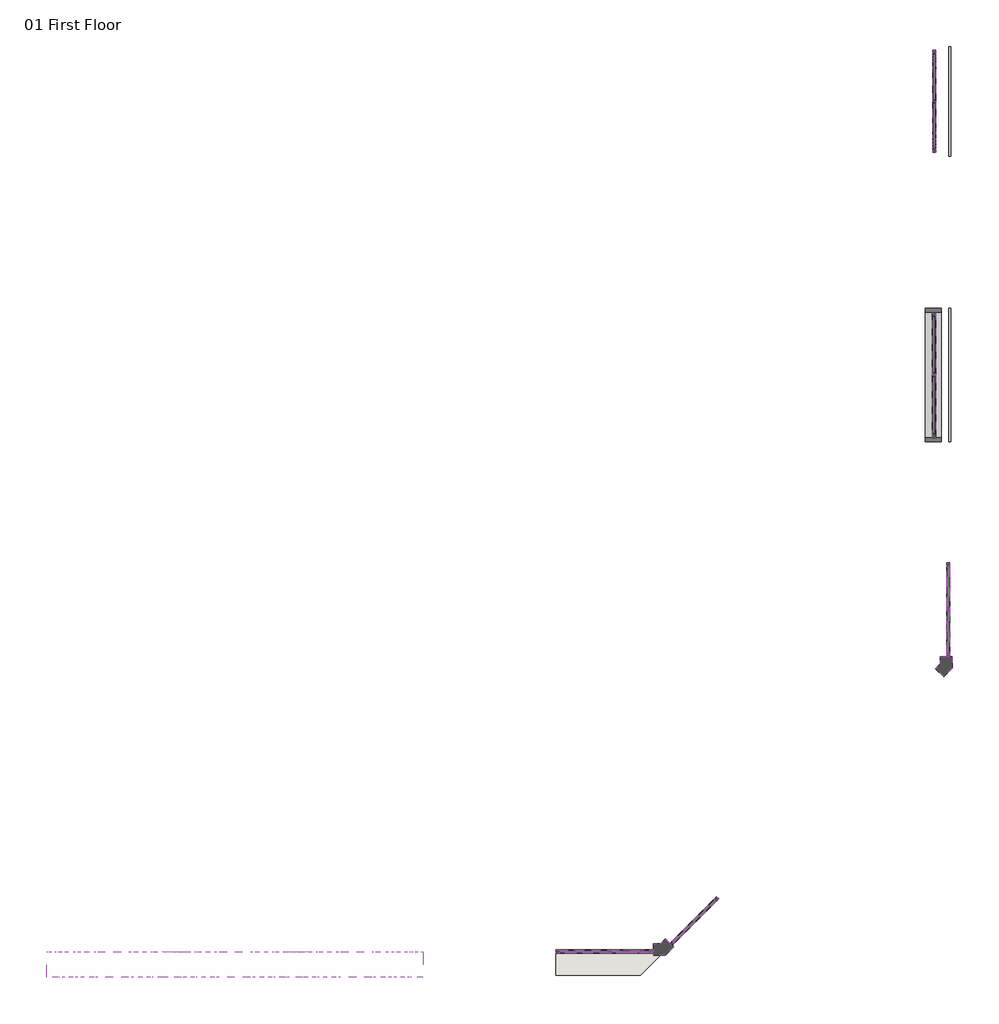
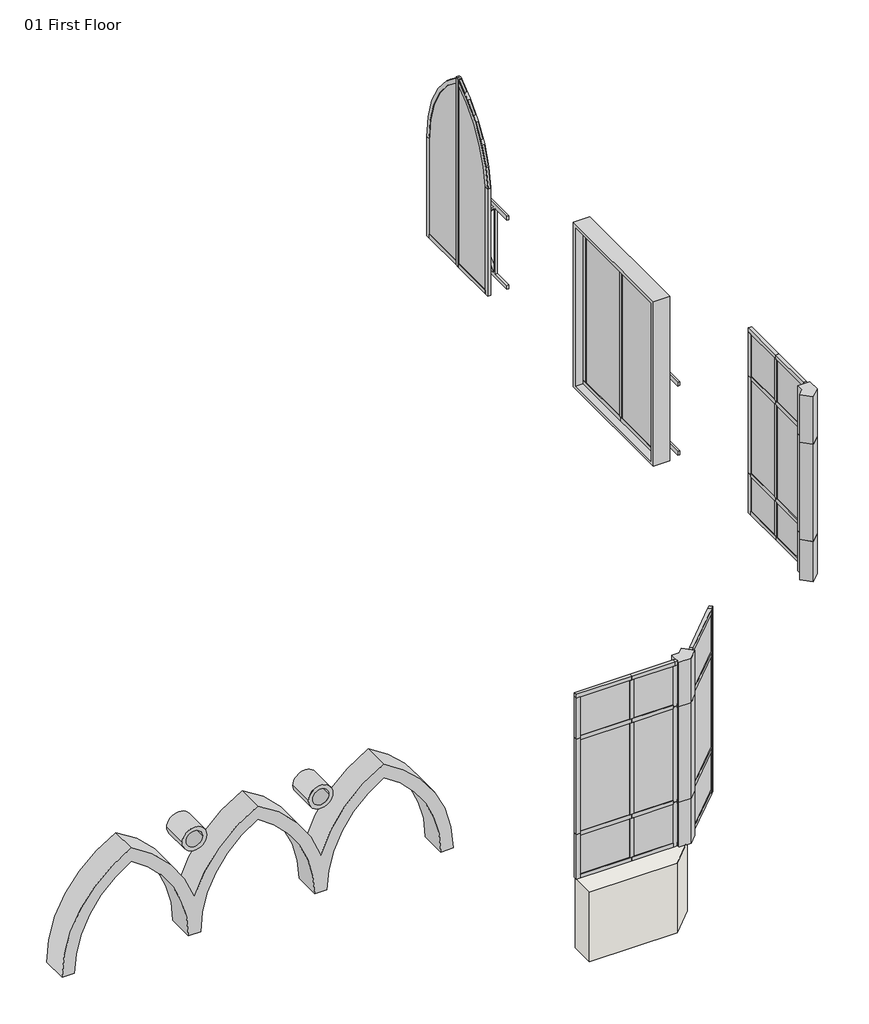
# One storey: 70 members, 25 plates, 5 proxies, 1 wall.
"""IFC4 building model written with IfcOpenShell, lengths in millimetres."""

from ifc_helpers import new_model, si_unit, origin, place, context, project, spatial, faceted_brep, transform, mapped, element, save
from components import generic_models_12_generic_models_12_d067ef9f, generic_models_15_generic_models_15_efa755f4, generic_models_16_generic_models_16_7fd303db, generic_models_17_generic_models_16_2699965c, generic_models_2_generic_models_2_ce3da98e, l_corner_mullion_l_mullion_1_84436f24, l_corner_mullion_l_mullion_1_990ac218, l_corner_mullion_l_mullion_1_5503049e, l_corner_mullion_l_mullion_1_2546fe3a, l_corner_mullion_l_mullion_1_32a30e72, rectangular_mullion_30mm_square_0beb0618, rectangular_mullion_30mm_square_74af2287, rectangular_mullion_30mm_square_bc888c15, rectangular_mullion_30mm_square_6e98ca6d, rectangular_mullion_30mm_square_5b9becf0, rectangular_mullion_30mm_square_0af94d56, rectangular_mullion_30mm_square_3b6dfc52, rectangular_mullion_30mm_square_c99fbce2, rectangular_mullion_30mm_square_45bacf98, rectangular_mullion_30mm_square_45b2ee8f, rectangular_mullion_30mm_square_86fe4f9d, rectangular_mullion_30mm_square_0cab2742, rectangular_mullion_30mm_square_0d12583d, rectangular_mullion_30mm_square_e2a04273, rectangular_mullion_30mm_square_133ca7d9, rectangular_mullion_30mm_square_72468e5d, rectangular_mullion_30mm_square_0105706c, rectangular_mullion_30mm_square_6dd94b54, rectangular_mullion_30mm_square_96682497, rectangular_mullion_30mm_square_48dd29ad, rectangular_mullion_30mm_square_f87c1b0b, rectangular_mullion_30mm_square_ad176692, rectangular_mullion_30mm_square_d153da73, rectangular_mullion_30mm_square_1b7a25a7, rectangular_mullion_30mm_square_5320ad48, rectangular_mullion_30mm_square_bbc1a294, rectangular_mullion_30mm_square_fb616f05, rectangular_mullion_30mm_square_5992c992, rectangular_mullion_30mm_square_75a85c25, rectangular_mullion_30mm_square_00888295, rectangular_mullion_30mm_square_9d930069, rectangular_mullion_30mm_square_78a9478a, rectangular_mullion_30mm_square_adbf443b, rectangular_mullion_30mm_square_95f67fdb, rectangular_mullion_30mm_square_f9243ba7, rectangular_mullion_30mm_square_9f93f3b7, rectangular_mullion_30mm_square_3c403d27, rectangular_mullion_30mm_square_8c048c14, rectangular_mullion_30mm_square_eb0cdd89, rectangular_mullion_30mm_square_0eecdd6a, rectangular_mullion_30mm_square_0e317346, rectangular_mullion_30mm_square_ed6351fc, system_panel_glazed_860a73af, system_panel_glazed_29cb387f, system_panel_glazed_97369be3, system_panel_glazed_47b3d700, system_panel_glazed_57bc2548, system_panel_glazed_f3e2f1d7, system_panel_glazed_a096f5b4, system_panel_glazed_72658598, system_panel_glazed_d0e55b34, system_panel_glazed_96af7f84, system_panel_glazed_873d9312, system_panel_glazed_47c0054f, system_panel_glazed_6a7ed4c6, system_panel_glazed_7d47e8fc, system_panel_glazed_19cdf183, system_panel_glazed_bf098422, system_panel_glazed_8feeb8a7, system_panel_glazed_0e0c2a18, system_panel_glazed_70a43815, system_panel_glazed_459e0092, system_panel_glazed_e5b8c45c

model = new_model("IFC4")

# Units and contexts
model_context = context("Model", 3, world=origin())
ifc_project = project(units=[si_unit("LENGTHUNIT", "METRE", prefix="MILLI")], contexts=[model_context])

# Site, building, storey
site = spatial("IfcSite", under=ifc_project)
building = spatial("IfcBuilding", under=site)
storey = spatial("IfcBuildingStorey", under=building, Name="01 First Floor", Elevation=3300.0)

# Proxies
placement = place(None, origin())
generic_models_12_generic_models_12_shape = generic_models_12_generic_models_12_d067ef9f(model_context)
element("IfcBuildingElementProxy", 1, Name="Generic Models 12 : Generic Models 12", ObjectType="Generic Models 12 : Generic Models 12", at=placement, inside=storey, context=model_context, shape_type="MappedRepresentation", body=[
    mapped(generic_models_12_generic_models_12_shape, transform((0.0, 0.0, 0.0), x_axis=(1.0, 0.0, 0.0), y_axis=(0.0, 1.0, 0.0), z_axis=(0.0, 0.0, 1.0))),
])
generic_models_15_generic_models_15_shape = generic_models_15_generic_models_15_efa755f4(model_context)
element("IfcBuildingElementProxy", 2, Name="Generic Models 15 : Generic Models 15", ObjectType="Generic Models 15 : Generic Models 15", at=placement, inside=storey, context=model_context, shape_type="MappedRepresentation", body=[
    mapped(generic_models_15_generic_models_15_shape, transform((0.0, 0.0, 0.0), x_axis=(1.0, 0.0, 0.0), y_axis=(0.0, 1.0, 0.0), z_axis=(0.0, 0.0, 1.0))),
])
generic_models_16_generic_models_16_shape = generic_models_16_generic_models_16_7fd303db(model_context)
element("IfcBuildingElementProxy", 3, Name="Generic Models 16 : Generic Models 16", ObjectType="Generic Models 16 : Generic Models 16", at=placement, inside=storey, context=model_context, shape_type="MappedRepresentation", body=[
    mapped(generic_models_16_generic_models_16_shape, transform((0.0, 0.0, 0.0), x_axis=(1.0, 0.0, 0.0), y_axis=(0.0, 1.0, 0.0), z_axis=(0.0, 0.0, 1.0))),
])
generic_models_17_generic_models_16_shape = generic_models_17_generic_models_16_2699965c(model_context)
element("IfcBuildingElementProxy", 4, Name="Generic Models 17 : Generic Models 16", ObjectType="Generic Models 17 : Generic Models 16", at=placement, inside=storey, context=model_context, shape_type="MappedRepresentation", body=[
    mapped(generic_models_17_generic_models_16_shape, transform((0.0, -3481.7316317, 50.0), x_axis=(1.0, 0.0, 0.0), y_axis=(0.0, 1.0, 0.0), z_axis=(0.0, 0.0, 1.0))),
])
generic_models_2_generic_models_2_shape = generic_models_2_generic_models_2_ce3da98e(model_context)
element("IfcBuildingElementProxy", 5, Name="Generic Models 2 : Generic Models 2", ObjectType="Generic Models 2 : Generic Models 2", at=placement, inside=storey, context=model_context, shape_type="MappedRepresentation", body=[
    mapped(generic_models_2_generic_models_2_shape, transform((0.0, 0.0, 0.0), x_axis=(1.0, 0.0, 0.0), y_axis=(0.0, 1.0, 0.0), z_axis=(0.0, 0.0, 1.0))),
])

# Members
l_corner_mullion_l_mullion_1_shape = l_corner_mullion_l_mullion_1_84436f24(model_context)
element("IfcMember", 6, ObjectType="L Corner Mullion : L Mullion 1", at=placement, inside=storey, context=model_context, shape_type="MappedRepresentation", body=[
    mapped(l_corner_mullion_l_mullion_1_shape, transform((12694.2552971, 3926.1313165, 5380.0), x_axis=(0.0, -1.0, 0.0), y_axis=(1.0, 0.0, 0.0), z_axis=(0.0, 0.0, 1.0))),
])
l_corner_mullion_l_mullion_1_2_shape = l_corner_mullion_l_mullion_1_990ac218(model_context)
element("IfcMember", 7, ObjectType="L Corner Mullion : L Mullion 1", at=placement, inside=storey, context=model_context, shape_type="MappedRepresentation", body=[
    mapped(l_corner_mullion_l_mullion_1_2_shape, transform((12694.2552971, 3926.1313165, 4120.0), x_axis=(0.0, -1.0, 0.0), y_axis=(1.0, 0.0, 0.0), z_axis=(0.0, 0.0, 1.0))),
])
l_corner_mullion_l_mullion_1_3_shape = l_corner_mullion_l_mullion_1_5503049e(model_context)
element("IfcMember", 8, ObjectType="L Corner Mullion : L Mullion 1", at=placement, inside=storey, context=model_context, shape_type="MappedRepresentation", body=[
    mapped(l_corner_mullion_l_mullion_1_3_shape, transform((9068.1237623, 299.9997817, 5420.0), x_axis=(-0.707106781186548, -0.707106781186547, 0.0), y_axis=(0.707106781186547, -0.707106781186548, 0.0), z_axis=(0.0, 0.0, 1.0))),
])
l_corner_mullion_l_mullion_1_4_shape = l_corner_mullion_l_mullion_1_2546fe3a(model_context)
element("IfcMember", 9, ObjectType="L Corner Mullion : L Mullion 1", at=placement, inside=storey, context=model_context, shape_type="MappedRepresentation", body=[
    mapped(l_corner_mullion_l_mullion_1_4_shape, transform((9068.1237623, 299.9997817, 6000.0), x_axis=(-0.707106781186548, -0.707106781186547, 0.0), y_axis=(0.707106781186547, -0.707106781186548, 0.0), z_axis=(0.0, 0.0, 1.0))),
])
element("IfcMember", 10, ObjectType="L Corner Mullion : L Mullion 1", at=placement, inside=storey, context=model_context, shape_type="MappedRepresentation", body=[
    mapped(l_corner_mullion_l_mullion_1_4_shape, transform((9068.1237623, 299.9997817, 4180.0), x_axis=(-0.707106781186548, -0.707106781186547, 0.0), y_axis=(0.707106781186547, -0.707106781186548, 0.0), z_axis=(0.0, 0.0, 1.0))),
])
l_corner_mullion_l_mullion_1_5_shape = l_corner_mullion_l_mullion_1_32a30e72(model_context)
element("IfcMember", 11, ObjectType="L Corner Mullion : L Mullion 1", at=placement, inside=storey, context=model_context, shape_type="MappedRepresentation", body=[
    mapped(l_corner_mullion_l_mullion_1_5_shape, transform((12694.2552971, 3926.1313165, 6000.0), x_axis=(0.0, -1.0, 0.0), y_axis=(1.0, 0.0, 0.0), z_axis=(0.0, 0.0, 1.0))),
])
rectangular_mullion_30mm_square_shape = rectangular_mullion_30mm_square_0beb0618(model_context)
element("IfcMember", 12, ObjectType="Rectangular Mullion : 30mm Square", at=placement, inside=storey, context=model_context, shape_type="MappedRepresentation", body=[
    mapped(rectangular_mullion_30mm_square_shape, transform((12510.6388763, 6846.7661592, 5450.0), x_axis=(0.0, 0.0, 1.0), y_axis=(-1.0, 0.0, 0.0), z_axis=(0.0, -1.0, 0.0))),
])
rectangular_mullion_30mm_square_2_shape = rectangular_mullion_30mm_square_74af2287(model_context)
element("IfcMember", 13, ObjectType="Rectangular Mullion : 30mm Square", at=placement, inside=storey, context=model_context, shape_type="MappedRepresentation", body=[
    mapped(rectangular_mullion_30mm_square_2_shape, transform((12510.6388763, 7646.7661592, 3450.0), x_axis=(0.0, -1.0, 0.0), y_axis=(-1.0, 0.0, 0.0), z_axis=(0.0, 0.0, -1.0))),
])
element("IfcMember", 14, ObjectType="Rectangular Mullion : 30mm Square", at=placement, inside=storey, context=model_context, shape_type="MappedRepresentation", body=[
    mapped(rectangular_mullion_30mm_square_shape, transform((12510.6388763, 7646.7661592, 3400.0), x_axis=(0.0, 0.0, -1.0), y_axis=(-1.0, 0.0, 0.0), z_axis=(0.0, 1.0, 0.0))),
])
rectangular_mullion_30mm_square_3_shape = rectangular_mullion_30mm_square_bc888c15(model_context)
element("IfcMember", 15, ObjectType="Rectangular Mullion : 30mm Square", at=placement, inside=storey, context=model_context, shape_type="MappedRepresentation", body=[
    mapped(rectangular_mullion_30mm_square_3_shape, transform((12510.6388763, 6846.7661592, 3450.0), x_axis=(0.0, -1.0, 0.0), y_axis=(-1.0, 0.0, 0.0), z_axis=(0.0, 0.0, -1.0))),
])
element("IfcMember", 16, ObjectType="Rectangular Mullion : 30mm Square", at=placement, inside=storey, context=model_context, shape_type="MappedRepresentation", body=[
    mapped(rectangular_mullion_30mm_square_3_shape, transform((12510.6388763, 8438.4977909, 5400.0), x_axis=(0.0, 1.0, 0.0), y_axis=(-1.0, 0.0, 0.0), z_axis=(0.0, 0.0, 1.0))),
])
rectangular_mullion_30mm_square_4_shape = rectangular_mullion_30mm_square_6e98ca6d(model_context)
element("IfcMember", 17, ObjectType="Rectangular Mullion : 30mm Square", at=placement, inside=storey, context=model_context, shape_type="MappedRepresentation", body=[
    mapped(rectangular_mullion_30mm_square_4_shape, transform((12694.2552971, 5250.511329, 4120.0), x_axis=(0.0, 1.0, 0.0), y_axis=(1.0, 0.0, 0.0), z_axis=(0.0, 0.0, -1.0))),
])
rectangular_mullion_30mm_square_5_shape = rectangular_mullion_30mm_square_5b9becf0(model_context)
element("IfcMember", 18, ObjectType="Rectangular Mullion : 30mm Square", at=placement, inside=storey, context=model_context, shape_type="MappedRepresentation", body=[
    mapped(rectangular_mullion_30mm_square_5_shape, transform((12694.2552971, 5250.511329, 3600.0), x_axis=(0.0, 1.0, 0.0), y_axis=(1.0, 0.0, 0.0), z_axis=(0.0, 0.0, -1.0))),
])
rectangular_mullion_30mm_square_6_shape = rectangular_mullion_30mm_square_0af94d56(model_context)
element("IfcMember", 19, ObjectType="Rectangular Mullion : 30mm Square", at=placement, inside=storey, context=model_context, shape_type="MappedRepresentation", body=[
    mapped(rectangular_mullion_30mm_square_6_shape, transform((12694.2552971, 4668.3213227, 3650.0), x_axis=(0.0, 1.0, 0.0), y_axis=(1.0, 0.0, 0.0), z_axis=(0.0, 0.0, -1.0))),
])
rectangular_mullion_30mm_square_7_shape = rectangular_mullion_30mm_square_3b6dfc52(model_context)
element("IfcMember", 20, ObjectType="Rectangular Mullion : 30mm Square", at=placement, inside=storey, context=model_context, shape_type="MappedRepresentation", body=[
    mapped(rectangular_mullion_30mm_square_7_shape, transform((12694.2552971, 4668.3213227, 4145.0), x_axis=(0.0, 1.0, 0.0), y_axis=(1.0, 0.0, 0.0), z_axis=(0.0, 0.0, -1.0))),
])
rectangular_mullion_30mm_square_8_shape = rectangular_mullion_30mm_square_c99fbce2(model_context)
element("IfcMember", 21, ObjectType="Rectangular Mullion : 30mm Square", at=placement, inside=storey, context=model_context, shape_type="MappedRepresentation", body=[
    mapped(rectangular_mullion_30mm_square_8_shape, transform((12694.2552971, 4061.1313165, 5380.0), x_axis=(0.0, 0.0, 1.0), y_axis=(1.0, 0.0, 0.0), z_axis=(0.0, 1.0, 0.0))),
])
element("IfcMember", 22, ObjectType="Rectangular Mullion : 30mm Square", at=placement, inside=storey, context=model_context, shape_type="MappedRepresentation", body=[
    mapped(rectangular_mullion_30mm_square_8_shape, transform((12694.2552971, 4061.1313165, 4120.0), x_axis=(0.0, 0.0, 1.0), y_axis=(1.0, 0.0, 0.0), z_axis=(0.0, 1.0, 0.0))),
])
element("IfcMember", 23, ObjectType="Rectangular Mullion : 30mm Square", at=placement, inside=storey, context=model_context, shape_type="MappedRepresentation", body=[
    mapped(rectangular_mullion_30mm_square_8_shape, transform((8936.9399962, 299.9997817, 4180.0), x_axis=(0.0, 0.0, 1.0), y_axis=(0.0, -1.0, 0.0), z_axis=(1.0, 0.0, 0.0))),
])
element("IfcMember", 24, ObjectType="Rectangular Mullion : 30mm Square", at=placement, inside=storey, context=model_context, shape_type="MappedRepresentation", body=[
    mapped(rectangular_mullion_30mm_square_8_shape, transform((8936.9399962, 299.9997817, 5420.0), x_axis=(0.0, 0.0, 1.0), y_axis=(0.0, -1.0, 0.0), z_axis=(1.0, 0.0, 0.0))),
])
rectangular_mullion_30mm_square_9_shape = rectangular_mullion_30mm_square_45bacf98(model_context)
element("IfcMember", 25, ObjectType="Rectangular Mullion : 30mm Square", at=placement, inside=storey, context=model_context, shape_type="MappedRepresentation", body=[
    mapped(rectangular_mullion_30mm_square_9_shape, transform((12694.2552971, 4086.1313165, 6000.0), x_axis=(0.0, 0.0, 1.0), y_axis=(1.0, 0.0, 0.0), z_axis=(0.0, 1.0, 0.0))),
])
rectangular_mullion_30mm_square_10_shape = rectangular_mullion_30mm_square_45b2ee8f(model_context)
element("IfcMember", 26, ObjectType="Rectangular Mullion : 30mm Square", at=placement, inside=storey, context=model_context, shape_type="MappedRepresentation", body=[
    mapped(rectangular_mullion_30mm_square_10_shape, transform((12694.2552971, 4086.1313165, 4120.0), x_axis=(0.0, 1.0, 0.0), y_axis=(1.0, 0.0, 0.0), z_axis=(0.0, 0.0, -1.0))),
])
rectangular_mullion_30mm_square_11_shape = rectangular_mullion_30mm_square_86fe4f9d(model_context)
element("IfcMember", 27, ObjectType="Rectangular Mullion : 30mm Square", at=placement, inside=storey, context=model_context, shape_type="MappedRepresentation", body=[
    mapped(rectangular_mullion_30mm_square_11_shape, transform((12694.2552971, 4057.3150827, 3600.0), x_axis=(0.0, 0.0, -1.0), y_axis=(1.0, 0.0, 0.0), z_axis=(0.0, -1.0, 0.0))),
])
element("IfcMember", 28, ObjectType="Rectangular Mullion : 30mm Square", at=placement, inside=storey, context=model_context, shape_type="MappedRepresentation", body=[
    mapped(rectangular_mullion_30mm_square_11_shape, transform((8933.1237623, 299.9997817, 3600.0), x_axis=(0.0, 0.0, -1.0), y_axis=(0.0, -1.0, 0.0), z_axis=(-1.0, 0.0, 0.0))),
])
rectangular_mullion_30mm_square_12_shape = rectangular_mullion_30mm_square_0cab2742(model_context)
element("IfcMember", 29, ObjectType="Rectangular Mullion : 30mm Square", at=placement, inside=storey, context=model_context, shape_type="MappedRepresentation", body=[
    mapped(rectangular_mullion_30mm_square_12_shape, transform((12694.2552971, 4086.1313165, 3600.0), x_axis=(0.0, 1.0, 0.0), y_axis=(1.0, 0.0, 0.0), z_axis=(0.0, 0.0, -1.0))),
])
rectangular_mullion_30mm_square_13_shape = rectangular_mullion_30mm_square_0d12583d(model_context)
element("IfcMember", 30, ObjectType="Rectangular Mullion : 30mm Square", at=placement, inside=storey, context=model_context, shape_type="MappedRepresentation", body=[
    mapped(rectangular_mullion_30mm_square_13_shape, transform((12694.2552971, 4668.3213227, 6000.0), x_axis=(0.0, 0.0, 1.0), y_axis=(1.0, 0.0, 0.0), z_axis=(0.0, 1.0, 0.0))),
])
rectangular_mullion_30mm_square_14_shape = rectangular_mullion_30mm_square_e2a04273(model_context)
element("IfcMember", 31, ObjectType="Rectangular Mullion : 30mm Square", at=placement, inside=storey, context=model_context, shape_type="MappedRepresentation", body=[
    mapped(rectangular_mullion_30mm_square_14_shape, transform((12694.2552971, 4668.3213227, 3600.0), x_axis=(0.0, 0.0, -1.0), y_axis=(1.0, 0.0, 0.0), z_axis=(0.0, -1.0, 0.0))),
])
rectangular_mullion_30mm_square_15_shape = rectangular_mullion_30mm_square_133ca7d9(model_context)
element("IfcMember", 32, ObjectType="Rectangular Mullion : 30mm Square", at=placement, inside=storey, context=model_context, shape_type="MappedRepresentation", body=[
    mapped(rectangular_mullion_30mm_square_15_shape, transform((12694.2552971, 5200.511329, 4120.0), x_axis=(0.0, 0.0, 1.0), y_axis=(1.0, 0.0, 0.0), z_axis=(0.0, 1.0, 0.0))),
])
element("IfcMember", 33, ObjectType="Rectangular Mullion : 30mm Square", at=placement, inside=storey, context=model_context, shape_type="MappedRepresentation", body=[
    mapped(rectangular_mullion_30mm_square_15_shape, transform((12694.2552971, 5200.511329, 5380.0), x_axis=(0.0, 0.0, 1.0), y_axis=(1.0, 0.0, 0.0), z_axis=(0.0, 1.0, 0.0))),
])
element("IfcMember", 34, ObjectType="Rectangular Mullion : 30mm Square", at=placement, inside=storey, context=model_context, shape_type="MappedRepresentation", body=[
    mapped(rectangular_mullion_30mm_square_13_shape, transform((12694.2552971, 5250.511329, 6000.0), x_axis=(0.0, 0.0, 1.0), y_axis=(1.0, 0.0, 0.0), z_axis=(0.0, 1.0, 0.0))),
])
rectangular_mullion_30mm_square_16_shape = rectangular_mullion_30mm_square_72468e5d(model_context)
element("IfcMember", 35, ObjectType="Rectangular Mullion : 30mm Square", at=placement, inside=storey, context=model_context, shape_type="MappedRepresentation", body=[
    mapped(rectangular_mullion_30mm_square_16_shape, transform((12694.2552971, 4668.3213227, 5380.0), x_axis=(0.0, 0.0, 1.0), y_axis=(1.0, 0.0, 0.0), z_axis=(0.0, 1.0, 0.0))),
])
element("IfcMember", 36, ObjectType="Rectangular Mullion : 30mm Square", at=placement, inside=storey, context=model_context, shape_type="MappedRepresentation", body=[
    mapped(rectangular_mullion_30mm_square_16_shape, transform((12694.2552971, 4668.3213227, 4120.0), x_axis=(0.0, 0.0, 1.0), y_axis=(1.0, 0.0, 0.0), z_axis=(0.0, 1.0, 0.0))),
])
rectangular_mullion_30mm_square_17_shape = rectangular_mullion_30mm_square_0105706c(model_context)
element("IfcMember", 37, ObjectType="Rectangular Mullion : 30mm Square", at=placement, inside=storey, context=model_context, shape_type="MappedRepresentation", body=[
    mapped(rectangular_mullion_30mm_square_17_shape, transform((12694.2552971, 4111.1313165, 3600.0), x_axis=(0.0, 0.0, -1.0), y_axis=(1.0, 0.0, 0.0), z_axis=(0.0, -1.0, 0.0))),
])
rectangular_mullion_30mm_square_18_shape = rectangular_mullion_30mm_square_6dd94b54(model_context)
element("IfcMember", 38, ObjectType="Rectangular Mullion : 30mm Square", at=placement, inside=storey, context=model_context, shape_type="MappedRepresentation", body=[
    mapped(rectangular_mullion_30mm_square_18_shape, transform((7692.387831, 299.9997817, 4180.0), x_axis=(-1.0, 0.0, 0.0), y_axis=(0.0, -1.0, 0.0), z_axis=(0.0, 0.0, 1.0))),
])
rectangular_mullion_30mm_square_19_shape = rectangular_mullion_30mm_square_96682497(model_context)
element("IfcMember", 39, ObjectType="Rectangular Mullion : 30mm Square", at=placement, inside=storey, context=model_context, shape_type="MappedRepresentation", body=[
    mapped(rectangular_mullion_30mm_square_19_shape, transform((7692.387831, 299.9997817, 5420.0), x_axis=(-1.0, 0.0, 0.0), y_axis=(0.0, -1.0, 0.0), z_axis=(0.0, 0.0, 1.0))),
])
rectangular_mullion_30mm_square_20_shape = rectangular_mullion_30mm_square_48dd29ad(model_context)
element("IfcMember", 40, ObjectType="Rectangular Mullion : 30mm Square", at=placement, inside=storey, context=model_context, shape_type="MappedRepresentation", body=[
    mapped(rectangular_mullion_30mm_square_20_shape, transform((8908.1237623, 299.9997817, 4180.0), x_axis=(1.0, 0.0, 0.0), y_axis=(0.0, -1.0, 0.0), z_axis=(0.0, 0.0, -1.0))),
])
element("IfcMember", 41, ObjectType="Rectangular Mullion : 30mm Square", at=placement, inside=storey, context=model_context, shape_type="MappedRepresentation", body=[
    mapped(rectangular_mullion_30mm_square_20_shape, transform((9174.1897795, 406.0657989, 4180.0), x_axis=(0.707106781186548, 0.707106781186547, 0.0), y_axis=(0.707106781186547, -0.707106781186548, 0.0), z_axis=(0.0, 0.0, -1.0))),
])
rectangular_mullion_30mm_square_21_shape = rectangular_mullion_30mm_square_f87c1b0b(model_context)
element("IfcMember", 42, ObjectType="Rectangular Mullion : 30mm Square", at=placement, inside=storey, context=model_context, shape_type="MappedRepresentation", body=[
    mapped(rectangular_mullion_30mm_square_21_shape, transform((8908.1237623, 299.9997817, 3600.0), x_axis=(1.0, 0.0, 0.0), y_axis=(0.0, -1.0, 0.0), z_axis=(0.0, 0.0, -1.0))),
])
element("IfcMember", 43, ObjectType="Rectangular Mullion : 30mm Square", at=placement, inside=storey, context=model_context, shape_type="MappedRepresentation", body=[
    mapped(rectangular_mullion_30mm_square_21_shape, transform((9174.1897795, 406.0657989, 3600.0), x_axis=(0.707106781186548, 0.707106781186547, 0.0), y_axis=(0.707106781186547, -0.707106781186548, 0.0), z_axis=(0.0, 0.0, -1.0))),
])
rectangular_mullion_30mm_square_22_shape = rectangular_mullion_30mm_square_ad176692(model_context)
element("IfcMember", 44, ObjectType="Rectangular Mullion : 30mm Square", at=placement, inside=storey, context=model_context, shape_type="MappedRepresentation", body=[
    mapped(rectangular_mullion_30mm_square_22_shape, transform((7692.387831, 299.9997817, 5950.0), x_axis=(-1.0, 0.0, 0.0), y_axis=(0.0, -1.0, 0.0), z_axis=(0.0, 0.0, 1.0))),
])
element("IfcMember", 45, ObjectType="Rectangular Mullion : 30mm Square", at=placement, inside=storey, context=model_context, shape_type="MappedRepresentation", body=[
    mapped(rectangular_mullion_30mm_square_9_shape, transform((8936.9399962, 299.9997817, 6000.0), x_axis=(0.0, 0.0, 1.0), y_axis=(0.0, -1.0, 0.0), z_axis=(1.0, 0.0, 0.0))),
])
rectangular_mullion_30mm_square_23_shape = rectangular_mullion_30mm_square_d153da73(model_context)
element("IfcMember", 46, ObjectType="Rectangular Mullion : 30mm Square", at=placement, inside=storey, context=model_context, shape_type="MappedRepresentation", body=[
    mapped(rectangular_mullion_30mm_square_23_shape, transform((8908.1237623, 299.9997817, 5420.0), x_axis=(1.0, 0.0, 0.0), y_axis=(0.0, -1.0, 0.0), z_axis=(0.0, 0.0, -1.0))),
])
rectangular_mullion_30mm_square_24_shape = rectangular_mullion_30mm_square_1b7a25a7(model_context)
element("IfcMember", 47, ObjectType="Rectangular Mullion : 30mm Square", at=placement, inside=storey, context=model_context, shape_type="MappedRepresentation", body=[
    mapped(rectangular_mullion_30mm_square_24_shape, transform((8883.1237623, 299.9997817, 4180.0), x_axis=(0.0, 0.0, 1.0), y_axis=(0.0, -1.0, 0.0), z_axis=(1.0, 0.0, 0.0))),
])
element("IfcMember", 48, ObjectType="Rectangular Mullion : 30mm Square", at=placement, inside=storey, context=model_context, shape_type="MappedRepresentation", body=[
    mapped(rectangular_mullion_30mm_square_24_shape, transform((8883.1237623, 299.9997817, 5420.0), x_axis=(0.0, 0.0, 1.0), y_axis=(0.0, -1.0, 0.0), z_axis=(1.0, 0.0, 0.0))),
])
rectangular_mullion_30mm_square_25_shape = rectangular_mullion_30mm_square_5320ad48(model_context)
element("IfcMember", 49, ObjectType="Rectangular Mullion : 30mm Square", at=placement, inside=storey, context=model_context, shape_type="MappedRepresentation", body=[
    mapped(rectangular_mullion_30mm_square_25_shape, transform((8372.387831, 299.9997817, 4180.0), x_axis=(0.0, 0.0, 1.0), y_axis=(0.0, -1.0, 0.0), z_axis=(1.0, 0.0, 0.0))),
])
element("IfcMember", 50, ObjectType="Rectangular Mullion : 30mm Square", at=placement, inside=storey, context=model_context, shape_type="MappedRepresentation", body=[
    mapped(rectangular_mullion_30mm_square_25_shape, transform((8372.387831, 299.9997817, 5420.0), x_axis=(0.0, 0.0, 1.0), y_axis=(0.0, -1.0, 0.0), z_axis=(1.0, 0.0, 0.0))),
])
rectangular_mullion_30mm_square_26_shape = rectangular_mullion_30mm_square_bbc1a294(model_context)
element("IfcMember", 51, ObjectType="Rectangular Mullion : 30mm Square", at=placement, inside=storey, context=model_context, shape_type="MappedRepresentation", body=[
    mapped(rectangular_mullion_30mm_square_26_shape, transform((8372.387831, 299.9997817, 4205.0), x_axis=(1.0, 0.0, 0.0), y_axis=(0.0, -1.0, 0.0), z_axis=(0.0, 0.0, -1.0))),
])
rectangular_mullion_30mm_square_27_shape = rectangular_mullion_30mm_square_fb616f05(model_context)
element("IfcMember", 52, ObjectType="Rectangular Mullion : 30mm Square", at=placement, inside=storey, context=model_context, shape_type="MappedRepresentation", body=[
    mapped(rectangular_mullion_30mm_square_27_shape, transform((7742.387831, 299.9997817, 3600.0), x_axis=(0.0, 0.0, -1.0), y_axis=(0.0, -1.0, 0.0), z_axis=(-1.0, 0.0, 0.0))),
])
rectangular_mullion_30mm_square_28_shape = rectangular_mullion_30mm_square_5992c992(model_context)
element("IfcMember", 53, ObjectType="Rectangular Mullion : 30mm Square", at=placement, inside=storey, context=model_context, shape_type="MappedRepresentation", body=[
    mapped(rectangular_mullion_30mm_square_28_shape, transform((8372.387831, 299.9997817, 3600.0), x_axis=(0.0, 0.0, -1.0), y_axis=(0.0, -1.0, 0.0), z_axis=(-1.0, 0.0, 0.0))),
])
rectangular_mullion_30mm_square_29_shape = rectangular_mullion_30mm_square_75a85c25(model_context)
element("IfcMember", 54, ObjectType="Rectangular Mullion : 30mm Square", at=placement, inside=storey, context=model_context, shape_type="MappedRepresentation", body=[
    mapped(rectangular_mullion_30mm_square_29_shape, transform((8372.387831, 299.9997817, 5445.0), x_axis=(1.0, 0.0, 0.0), y_axis=(0.0, -1.0, 0.0), z_axis=(0.0, 0.0, -1.0))),
])
element("IfcMember", 55, ObjectType="Rectangular Mullion : 30mm Square", at=placement, inside=storey, context=model_context, shape_type="MappedRepresentation", body=[
    mapped(rectangular_mullion_30mm_square_29_shape, transform((8372.387831, 299.9997817, 3650.0), x_axis=(1.0, 0.0, 0.0), y_axis=(0.0, -1.0, 0.0), z_axis=(0.0, 0.0, -1.0))),
])
element("IfcMember", 56, ObjectType="Rectangular Mullion : 30mm Square", at=placement, inside=storey, context=model_context, shape_type="MappedRepresentation", body=[
    mapped(rectangular_mullion_30mm_square_18_shape, transform((9753.2204423, 985.0964616, 5420.0), x_axis=(0.707106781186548, 0.707106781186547, 0.0), y_axis=(0.707106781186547, -0.707106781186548, 0.0), z_axis=(0.0, 0.0, -1.0))),
])
element("IfcMember", 57, ObjectType="Rectangular Mullion : 30mm Square", at=placement, inside=storey, context=model_context, shape_type="MappedRepresentation", body=[
    mapped(rectangular_mullion_30mm_square_19_shape, transform((9753.2204423, 985.0964616, 4180.0), x_axis=(0.707106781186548, 0.707106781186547, 0.0), y_axis=(0.707106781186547, -0.707106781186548, 0.0), z_axis=(0.0, 0.0, -1.0))),
])
element("IfcMember", 58, ObjectType="Rectangular Mullion : 30mm Square", at=placement, inside=storey, context=model_context, shape_type="MappedRepresentation", body=[
    mapped(rectangular_mullion_30mm_square_18_shape, transform((9753.2204423, 985.0964616, 3600.0), x_axis=(0.707106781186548, 0.707106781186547, 0.0), y_axis=(0.707106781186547, -0.707106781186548, 0.0), z_axis=(0.0, 0.0, -1.0))),
])
rectangular_mullion_30mm_square_30_shape = rectangular_mullion_30mm_square_00888295(model_context)
element("IfcMember", 59, ObjectType="Rectangular Mullion : 30mm Square", at=placement, inside=storey, context=model_context, shape_type="MappedRepresentation", body=[
    mapped(rectangular_mullion_30mm_square_30_shape, transform((9717.8651032, 949.7411225, 6000.0), x_axis=(0.0, 0.0, 1.0), y_axis=(0.7071067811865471, -0.707106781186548, 0.0), z_axis=(0.707106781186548, 0.7071067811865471, 0.0))),
])
rectangular_mullion_30mm_square_31_shape = rectangular_mullion_30mm_square_9d930069(model_context)
element("IfcMember", 60, ObjectType="Rectangular Mullion : 30mm Square", at=placement, inside=storey, context=model_context, shape_type="MappedRepresentation", body=[
    mapped(rectangular_mullion_30mm_square_31_shape, transform((9717.8651032, 949.7411225, 5420.0), x_axis=(0.0, 0.0, 1.0), y_axis=(0.7071067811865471, -0.7071067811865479, 0.0), z_axis=(0.7071067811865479, 0.7071067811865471, 0.0))),
])
element("IfcMember", 61, ObjectType="Rectangular Mullion : 30mm Square", at=placement, inside=storey, context=model_context, shape_type="MappedRepresentation", body=[
    mapped(rectangular_mullion_30mm_square_31_shape, transform((9717.8651032, 949.7411225, 4180.0), x_axis=(0.0, 0.0, 1.0), y_axis=(0.7071067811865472, -0.7071067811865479, 0.0), z_axis=(0.7071067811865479, 0.7071067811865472, 0.0))),
])
element("IfcMember", 62, ObjectType="Rectangular Mullion : 30mm Square", at=placement, inside=storey, context=model_context, shape_type="MappedRepresentation", body=[
    mapped(rectangular_mullion_30mm_square_30_shape, transform((9191.867449, 423.7434684, 3600.0), x_axis=(0.0, 0.0, -1.0), y_axis=(0.7071067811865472, -0.7071067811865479, 0.0), z_axis=(-0.7071067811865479, -0.7071067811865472, 0.0))),
])
element("IfcMember", 63, ObjectType="Rectangular Mullion : 30mm Square", at=placement, inside=storey, context=model_context, shape_type="MappedRepresentation", body=[
    mapped(rectangular_mullion_30mm_square_21_shape, transform((9174.1897795, 406.0657989, 5420.0), x_axis=(0.707106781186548, 0.707106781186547, 0.0), y_axis=(0.707106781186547, -0.707106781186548, 0.0), z_axis=(0.0, 0.0, -1.0))),
])
rectangular_mullion_30mm_square_32_shape = rectangular_mullion_30mm_square_78a9478a(model_context)
element("IfcMember", 64, ObjectType="Rectangular Mullion : 30mm Square", at=placement, inside=storey, context=model_context, shape_type="MappedRepresentation", body=[
    mapped(rectangular_mullion_30mm_square_32_shape, transform((8372.387831, 299.9997817, 6000.0), x_axis=(0.0, 0.0, 1.0), y_axis=(0.0, -1.0, 0.0), z_axis=(1.0, 0.0, 0.0))),
])
rectangular_mullion_30mm_square_33_shape = rectangular_mullion_30mm_square_adbf443b(model_context)
element("IfcMember", 65, ObjectType="Rectangular Mullion : 30mm Square", at=placement, inside=storey, context=model_context, shape_type="MappedRepresentation", body=[
    mapped(rectangular_mullion_30mm_square_33_shape, transform((8908.1237623, 299.9997817, 6000.0), x_axis=(0.0, 0.0, 1.0), y_axis=(0.0, -1.0, 0.0), z_axis=(1.0, 0.0, 0.0))),
])
rectangular_mullion_30mm_square_34_shape = rectangular_mullion_30mm_square_95f67fdb(model_context)
element("IfcMember", 66, ObjectType="Rectangular Mullion : 30mm Square", at=placement, inside=storey, context=model_context, shape_type="MappedRepresentation", body=[
    mapped(rectangular_mullion_30mm_square_34_shape, transform((12694.2552971, 4086.1313165, 5380.0), x_axis=(0.0, 1.0, 0.0), y_axis=(1.0, 0.0, 0.0), z_axis=(0.0, 0.0, -1.0))),
])
rectangular_mullion_30mm_square_35_shape = rectangular_mullion_30mm_square_f9243ba7(model_context)
element("IfcMember", 67, ObjectType="Rectangular Mullion : 30mm Square", at=placement, inside=storey, context=model_context, shape_type="MappedRepresentation", body=[
    mapped(rectangular_mullion_30mm_square_35_shape, transform((12694.2552971, 4668.3213227, 5405.0), x_axis=(0.0, 1.0, 0.0), y_axis=(1.0, 0.0, 0.0), z_axis=(0.0, 0.0, -1.0))),
])
rectangular_mullion_30mm_square_36_shape = rectangular_mullion_30mm_square_9f93f3b7(model_context)
element("IfcMember", 68, ObjectType="Rectangular Mullion : 30mm Square", at=placement, inside=storey, context=model_context, shape_type="MappedRepresentation", body=[
    mapped(rectangular_mullion_30mm_square_36_shape, transform((12694.2552971, 5250.511329, 5380.0), x_axis=(0.0, 1.0, 0.0), y_axis=(1.0, 0.0, 0.0), z_axis=(0.0, 0.0, -1.0))),
])
rectangular_mullion_30mm_square_37_shape = rectangular_mullion_30mm_square_3c403d27(model_context)
element("IfcMember", 69, ObjectType="Rectangular Mullion : 30mm Square", at=placement, inside=storey, context=model_context, shape_type="MappedRepresentation", body=[
    mapped(rectangular_mullion_30mm_square_37_shape, transform((12514.8001123, 11128.4977909, 3300.0), x_axis=(0.0, -1.0, 0.0), y_axis=(-1.0, 0.0, 0.0), z_axis=(0.0, 0.0, -1.0))),
])
rectangular_mullion_30mm_square_38_shape = rectangular_mullion_30mm_square_8c048c14(model_context)
element("IfcMember", 70, ObjectType="Rectangular Mullion : 30mm Square", at=placement, inside=storey, context=model_context, shape_type="MappedRepresentation", body=[
    mapped(rectangular_mullion_30mm_square_38_shape, transform((12514.8001123, 11103.4977909, 3300.0), x_axis=(0.0, 0.0, -1.0), y_axis=(-1.0, 0.0, 0.0), z_axis=(0.0, 1.0, 0.0))),
])
rectangular_mullion_30mm_square_39_shape = rectangular_mullion_30mm_square_eb0cdd89(model_context)
element("IfcMember", 71, ObjectType="Rectangular Mullion : 30mm Square", at=placement, inside=storey, context=model_context, shape_type="MappedRepresentation", body=[
    mapped(rectangular_mullion_30mm_square_39_shape, transform((12514.8001123, 10482.5626898, 3300.0), x_axis=(0.0, -1.0, 0.0), y_axis=(-1.0, 0.0, 0.0), z_axis=(0.0, 0.0, -1.0))),
])
rectangular_mullion_30mm_square_40_shape = rectangular_mullion_30mm_square_0eecdd6a(model_context)
element("IfcMember", 72, ObjectType="Rectangular Mullion : 30mm Square", at=placement, inside=storey, context=model_context, shape_type="MappedRepresentation", body=[
    mapped(rectangular_mullion_30mm_square_40_shape, transform((12514.8001123, 11728.4977909, 3300.0), x_axis=(0.0, 0.0, -1.0), y_axis=(-1.0, 0.0, 0.0), z_axis=(0.0, 1.0, 0.0))),
])
rectangular_mullion_30mm_square_41_shape = rectangular_mullion_30mm_square_0e317346(model_context)
element("IfcMember", 73, ObjectType="Rectangular Mullion : 30mm Square", at=placement, inside=storey, context=model_context, shape_type="MappedRepresentation", body=[
    mapped(rectangular_mullion_30mm_square_41_shape, transform((12514.8001123, 11778.4977909, 4587.5644347), x_axis=(0.0, 1.0, 0.0), y_axis=(-1.0, 0.0, 0.0), z_axis=(0.0, 0.0, 1.0))),
])
rectangular_mullion_30mm_square_42_shape = rectangular_mullion_30mm_square_ed6351fc(model_context)
element("IfcMember", 74, ObjectType="Rectangular Mullion : 30mm Square", at=placement, inside=storey, context=model_context, shape_type="MappedRepresentation", body=[
    mapped(rectangular_mullion_30mm_square_42_shape, transform((12510.6388763, 8438.4977909, 3400.0), x_axis=(0.0, 0.0, -1.0), y_axis=(-1.0, 0.0, 0.0), z_axis=(0.0, 1.0, 0.0))),
])
element("IfcMember", 75, ObjectType="Rectangular Mullion : 30mm Square", at=placement, inside=storey, context=model_context, shape_type="MappedRepresentation", body=[
    mapped(rectangular_mullion_30mm_square_42_shape, transform((12510.6388763, 7646.7661592, 5450.0), x_axis=(0.0, 0.0, 1.0), y_axis=(-1.0, 0.0, 0.0), z_axis=(0.0, -1.0, 0.0))),
])

# Plates
system_panel_glazed_shape = system_panel_glazed_860a73af(model_context)
element("IfcPlate", 76, ObjectType="System Panel : Glazed", at=placement, inside=storey, context=model_context, shape_type="MappedRepresentation", body=[
    mapped(system_panel_glazed_shape, transform((12510.6388763, 7259.2661592, 3450.0), x_axis=(0.0, -1.0, 0.0), y_axis=(1.0, 0.0, 0.0), z_axis=(0.0, 0.0, 1.0))),
])
system_panel_glazed_2_shape = system_panel_glazed_29cb387f(model_context)
element("IfcPlate", 77, ObjectType="System Panel : Glazed", at=placement, inside=storey, context=model_context, shape_type="MappedRepresentation", body=[
    mapped(system_panel_glazed_2_shape, transform((12694.2552971, 4059.2231996, 3650.0), x_axis=(0.0, 1.0, 0.0), y_axis=(-1.0, 0.0, 0.0), z_axis=(0.0, 0.0, 1.0))),
])
system_panel_glazed_3_shape = system_panel_glazed_97369be3(model_context)
element("IfcPlate", 78, ObjectType="System Panel : Glazed", at=placement, inside=storey, context=model_context, shape_type="MappedRepresentation", body=[
    mapped(system_panel_glazed_3_shape, transform((12694.2552971, 4059.2231996, 4145.0), x_axis=(0.0, 1.0, 0.0), y_axis=(-1.0, 0.0, 0.0), z_axis=(0.0, 0.0, 1.0))),
])
system_panel_glazed_4_shape = system_panel_glazed_47b3d700(model_context)
element("IfcPlate", 79, ObjectType="System Panel : Glazed", at=placement, inside=storey, context=model_context, shape_type="MappedRepresentation", body=[
    mapped(system_panel_glazed_4_shape, transform((12694.2552971, 4946.9163259, 3650.0), x_axis=(0.0, 1.0, 0.0), y_axis=(-1.0, 0.0, 0.0), z_axis=(0.0, 0.0, 1.0))),
])
system_panel_glazed_5_shape = system_panel_glazed_57bc2548(model_context)
element("IfcPlate", 80, ObjectType="System Panel : Glazed", at=placement, inside=storey, context=model_context, shape_type="MappedRepresentation", body=[
    mapped(system_panel_glazed_5_shape, transform((12694.2552971, 4946.9163259, 4145.0), x_axis=(0.0, 1.0, 0.0), y_axis=(-1.0, 0.0, 0.0), z_axis=(0.0, 0.0, 1.0))),
])
system_panel_glazed_6_shape = system_panel_glazed_f3e2f1d7(model_context)
element("IfcPlate", 81, ObjectType="System Panel : Glazed", at=placement, inside=storey, context=model_context, shape_type="MappedRepresentation", body=[
    mapped(system_panel_glazed_6_shape, transform((12694.2552971, 4377.2263196, 3650.0), x_axis=(0.0, 1.0, 0.0), y_axis=(-1.0, 0.0, 0.0), z_axis=(0.0, 0.0, 1.0))),
])
system_panel_glazed_7_shape = system_panel_glazed_a096f5b4(model_context)
element("IfcPlate", 82, ObjectType="System Panel : Glazed", at=placement, inside=storey, context=model_context, shape_type="MappedRepresentation", body=[
    mapped(system_panel_glazed_7_shape, transform((12694.2552971, 4377.2263196, 4145.0), x_axis=(0.0, 1.0, 0.0), y_axis=(-1.0, 0.0, 0.0), z_axis=(0.0, 0.0, 1.0))),
])
system_panel_glazed_8_shape = system_panel_glazed_72658598(model_context)
element("IfcPlate", 83, ObjectType="System Panel : Glazed", at=placement, inside=storey, context=model_context, shape_type="MappedRepresentation", body=[
    mapped(system_panel_glazed_8_shape, transform((8935.0318792, 299.9997817, 3650.0), x_axis=(1.0, 0.0, 0.0), y_axis=(0.0, 1.0, 0.0), z_axis=(0.0, 0.0, 1.0))),
])
element("IfcPlate", 84, ObjectType="System Panel : Glazed", at=placement, inside=storey, context=model_context, shape_type="MappedRepresentation", body=[
    mapped(system_panel_glazed_8_shape, transform((8935.0318792, 299.9997817, 5445.0), x_axis=(1.0, 0.0, 0.0), y_axis=(0.0, 1.0, 0.0), z_axis=(0.0, 0.0, 1.0))),
])
system_panel_glazed_9_shape = system_panel_glazed_d0e55b34(model_context)
element("IfcPlate", 85, ObjectType="System Panel : Glazed", at=placement, inside=storey, context=model_context, shape_type="MappedRepresentation", body=[
    mapped(system_panel_glazed_9_shape, transform((8935.0318792, 299.9997817, 4205.0), x_axis=(1.0, 0.0, 0.0), y_axis=(0.0, 1.0, 0.0), z_axis=(0.0, 0.0, 1.0))),
])
system_panel_glazed_10_shape = system_panel_glazed_96af7f84(model_context)
element("IfcPlate", 86, ObjectType="System Panel : Glazed", at=placement, inside=storey, context=model_context, shape_type="MappedRepresentation", body=[
    mapped(system_panel_glazed_10_shape, transform((8044.887831, 299.9997817, 3650.0), x_axis=(1.0, 0.0, 0.0), y_axis=(0.0, 1.0, 0.0), z_axis=(0.0, 0.0, 1.0))),
])
element("IfcPlate", 87, ObjectType="System Panel : Glazed", at=placement, inside=storey, context=model_context, shape_type="MappedRepresentation", body=[
    mapped(system_panel_glazed_10_shape, transform((8044.887831, 299.9997817, 5445.0), x_axis=(1.0, 0.0, 0.0), y_axis=(0.0, 1.0, 0.0), z_axis=(0.0, 0.0, 1.0))),
])
system_panel_glazed_11_shape = system_panel_glazed_873d9312(model_context)
element("IfcPlate", 88, ObjectType="System Panel : Glazed", at=placement, inside=storey, context=model_context, shape_type="MappedRepresentation", body=[
    mapped(system_panel_glazed_11_shape, transform((8640.2557967, 299.9997817, 3650.0), x_axis=(1.0, 0.0, 0.0), y_axis=(0.0, 1.0, 0.0), z_axis=(0.0, 0.0, 1.0))),
])
element("IfcPlate", 89, ObjectType="System Panel : Glazed", at=placement, inside=storey, context=model_context, shape_type="MappedRepresentation", body=[
    mapped(system_panel_glazed_11_shape, transform((8640.2557967, 299.9997817, 5445.0), x_axis=(1.0, 0.0, 0.0), y_axis=(0.0, 1.0, 0.0), z_axis=(0.0, 0.0, 1.0))),
])
system_panel_glazed_12_shape = system_panel_glazed_47c0054f(model_context)
element("IfcPlate", 90, ObjectType="System Panel : Glazed", at=placement, inside=storey, context=model_context, shape_type="MappedRepresentation", body=[
    mapped(system_panel_glazed_12_shape, transform((8044.887831, 299.9997817, 4205.0), x_axis=(1.0, 0.0, 0.0), y_axis=(0.0, 1.0, 0.0), z_axis=(0.0, 0.0, 1.0))),
])
system_panel_glazed_13_shape = system_panel_glazed_6a7ed4c6(model_context)
element("IfcPlate", 91, ObjectType="System Panel : Glazed", at=placement, inside=storey, context=model_context, shape_type="MappedRepresentation", body=[
    mapped(system_panel_glazed_13_shape, transform((8640.2557967, 299.9997817, 4205.0), x_axis=(1.0, 0.0, 0.0), y_axis=(0.0, 1.0, 0.0), z_axis=(0.0, 0.0, 1.0))),
])
system_panel_glazed_14_shape = system_panel_glazed_7d47e8fc(model_context)
element("IfcPlate", 92, ObjectType="System Panel : Glazed", at=placement, inside=storey, context=model_context, shape_type="MappedRepresentation", body=[
    mapped(system_panel_glazed_14_shape, transform((9454.8662761, 686.7422955, 3650.0), x_axis=(0.707106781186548, 0.707106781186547, 0.0), y_axis=(-0.707106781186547, 0.707106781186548, 0.0), z_axis=(0.0, 0.0, 1.0))),
])
element("IfcPlate", 93, ObjectType="System Panel : Glazed", at=placement, inside=storey, context=model_context, shape_type="MappedRepresentation", body=[
    mapped(system_panel_glazed_14_shape, transform((9454.8662761, 686.7422955, 5445.0), x_axis=(0.707106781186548, 0.707106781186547, 0.0), y_axis=(-0.707106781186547, 0.707106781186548, 0.0), z_axis=(0.0, 0.0, 1.0))),
])
system_panel_glazed_15_shape = system_panel_glazed_19cdf183(model_context)
element("IfcPlate", 94, ObjectType="System Panel : Glazed", at=placement, inside=storey, context=model_context, shape_type="MappedRepresentation", body=[
    mapped(system_panel_glazed_15_shape, transform((9454.8662761, 686.7422955, 4205.0), x_axis=(0.707106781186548, 0.707106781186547, 0.0), y_axis=(-0.707106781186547, 0.707106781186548, 0.0), z_axis=(0.0, 0.0, 1.0))),
])
system_panel_glazed_16_shape = system_panel_glazed_bf098422(model_context)
element("IfcPlate", 95, ObjectType="System Panel : Glazed", at=placement, inside=storey, context=model_context, shape_type="MappedRepresentation", body=[
    mapped(system_panel_glazed_16_shape, transform((12694.2552971, 4059.2231996, 5405.0), x_axis=(0.0, 1.0, 0.0), y_axis=(-1.0, 0.0, 0.0), z_axis=(0.0, 0.0, 1.0))),
])
system_panel_glazed_17_shape = system_panel_glazed_8feeb8a7(model_context)
element("IfcPlate", 96, ObjectType="System Panel : Glazed", at=placement, inside=storey, context=model_context, shape_type="MappedRepresentation", body=[
    mapped(system_panel_glazed_17_shape, transform((12694.2552971, 4946.9163259, 5405.0), x_axis=(0.0, 1.0, 0.0), y_axis=(-1.0, 0.0, 0.0), z_axis=(0.0, 0.0, 1.0))),
])
system_panel_glazed_18_shape = system_panel_glazed_0e0c2a18(model_context)
element("IfcPlate", 97, ObjectType="System Panel : Glazed", at=placement, inside=storey, context=model_context, shape_type="MappedRepresentation", body=[
    mapped(system_panel_glazed_18_shape, transform((12694.2552971, 4377.2263196, 5405.0), x_axis=(0.0, 1.0, 0.0), y_axis=(-1.0, 0.0, 0.0), z_axis=(0.0, 0.0, 1.0))),
])
system_panel_glazed_19_shape = system_panel_glazed_70a43815(model_context)
element("IfcPlate", 98, ObjectType="System Panel : Glazed", at=placement, inside=storey, context=model_context, shape_type="MappedRepresentation", body=[
    mapped(system_panel_glazed_19_shape, transform((12514.8001123, 10793.0302404, 3350.0), x_axis=(0.0, -1.0, 0.0), y_axis=(1.0, 0.0, 0.0), z_axis=(0.0, 0.0, 1.0))),
])
system_panel_glazed_20_shape = system_panel_glazed_459e0092(model_context)
element("IfcPlate", 99, ObjectType="System Panel : Glazed", at=placement, inside=storey, context=model_context, shape_type="MappedRepresentation", body=[
    mapped(system_panel_glazed_20_shape, transform((12514.8001123, 11465.9977909, 3350.0), x_axis=(0.0, -1.0, 0.0), y_axis=(1.0, 0.0, 0.0), z_axis=(0.0, 0.0, 1.0))),
])
system_panel_glazed_21_shape = system_panel_glazed_e5b8c45c(model_context)
element("IfcPlate", 100, ObjectType="System Panel : Glazed", at=placement, inside=storey, context=model_context, shape_type="MappedRepresentation", body=[
    mapped(system_panel_glazed_21_shape, transform((12510.6388763, 8030.1319751, 3450.0), x_axis=(0.0, -1.0, 0.0), y_axis=(1.0, 0.0, 0.0), z_axis=(0.0, 0.0, 1.0))),
])

# Wall
element("IfcWall", 101, ObjectType="Generic - 300mm", at=placement, inside=storey, context=model_context, shape_type="Brep", body=[
    faceted_brep([(9068.1237623, 299.9997817, 2700.0), (7692.387831, 299.9997817, 2700.0), (7692.387831, 299.9997817, 3600.0), (9068.1237623, 299.9997817, 3600.0), (8768.1237623, -0.0002183, 2700.0), (8768.1237623, -0.0002183, 2710.3490056), (8768.1237623, -0.0002183, 3600.0), (7692.387831, -0.0002183, 3600.0), (7692.387831, -0.0002183, 2700.0)], [[[0, 1, 2, 3]], [[4, 5, 6, 7, 8]], [[1, 0, 4, 8]], [[2, 1, 8, 7]], [[3, 2, 7, 6]], [[0, 3, 6, 5, 4]]]),
])

save(model, "model.ifc")
